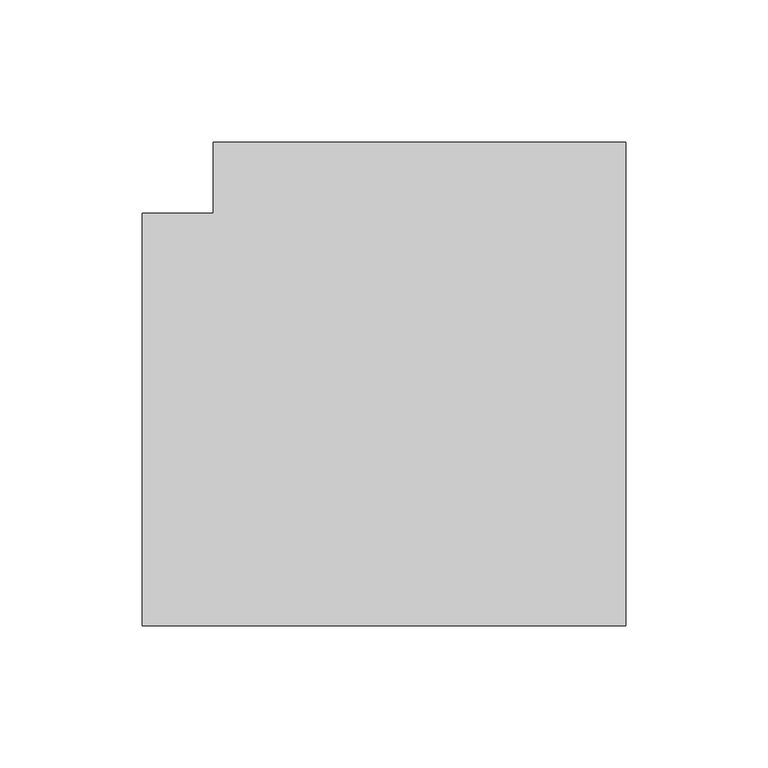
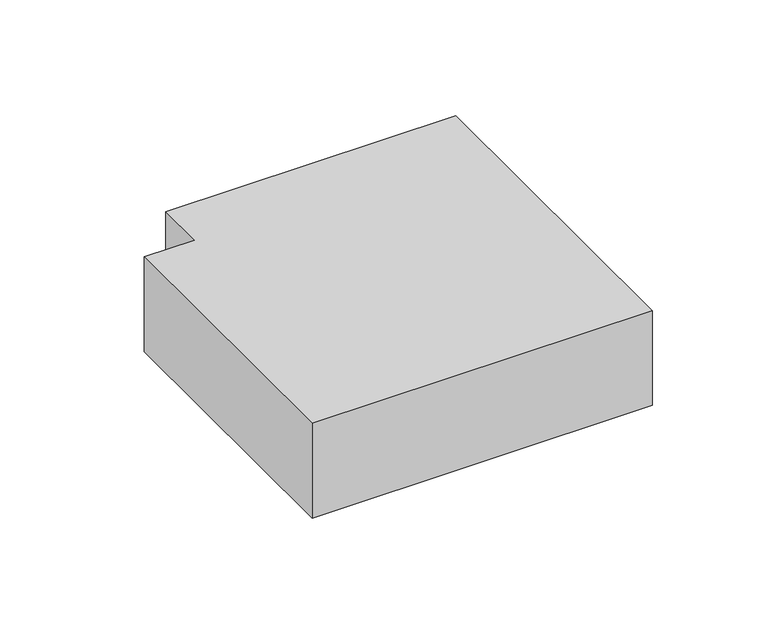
"""IFC4 building model written with IfcOpenShell, lengths in millimetres: duct fitting geometry, КНС_УголПлоский_DKC : Угол плоский."""

from ifc_helpers import new_model, si_unit, frame, origin, place, context, project, spatial, polyline, outline, extrude, source, transform, mapped, element, save


def duct_fitting_9d7435e2(model_context):
    return source(origin(), model_context, "Body", "SweptSolid", [
        extrude(outline(polyline([(-87.3334112, -87.5757244), (-87.3334112, 57.4242756), (-62.3334112, 57.4242756), (-62.3334112, 82.4242756), (82.6665888, 82.4242756), (82.6665888, -87.5757244), (-87.3334112, -87.5757244)])), frame((0.0, 0.0, -25.0), z_axis=(0.0, 0.0, 1.0), x_axis=(1.0, 0.0, 0.0)), (0.0, 0.0, 1.0), 50.0),
    ])


if __name__ == "__main__":
    model = new_model("IFC4")
    model_context = context("Model", 3, world=origin())
    ifc_project = project(units=[si_unit("LENGTHUNIT", "METRE", prefix="MILLI")], contexts=[model_context])
    site = spatial("IfcSite", under=ifc_project)
    building = spatial("IfcBuilding", under=site)
    placement = place(None, origin())
    duct_fitting_shape = duct_fitting_9d7435e2(model_context)
    element("IfcDuctFitting", 1, ObjectType="КНС_УголПлоский_DKC : Угол плоский", at=placement, inside=building, context=model_context, shape_type="MappedRepresentation", body=[
        mapped(duct_fitting_shape, transform((0.0, 0.0, 0.0), x_axis=(1.0, 0.0, 0.0), y_axis=(0.0, 1.0, 0.0), z_axis=(0.0, 0.0, 1.0))),
    ])
    save(model, "model.ifc")
